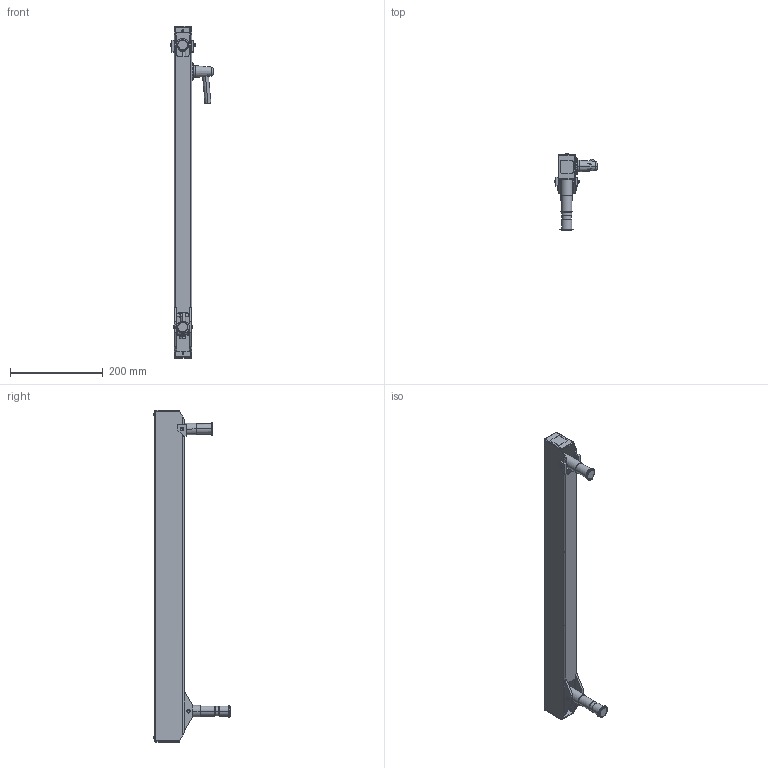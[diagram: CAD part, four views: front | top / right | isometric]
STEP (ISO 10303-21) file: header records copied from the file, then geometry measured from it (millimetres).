
FILE_DESCRIPTION (( 'STEP AP203' ), '1' );
FILE_NAME ('70-2435-00 REV AA, FLEX SECTION, 24in, 16-35 LB - HORIZONTAL.STEP', '2025-06-17T23:26:22', ( '' ), ( '' ), 'SwSTEP 2.0', 'SolidWorks 2025', '' );
FILE_SCHEMA (( 'CONFIG_CONTROL_DESIGN' ));
Length unit declared in the file: inch
Products named in the file (37): 71-0060-00; 71-0028-RX REV AA, TAB, MOUNT_MACHINE; 010-012-00, RETAINING RING, EXTERNAL, .875in SHAFT; 71-0040-RX REV AA, BRAKE BLOCK, WIDE_MACHINE; 71-0030-RX REV AA, KNUCKLE, LOAD_MACHINE; 11-0027-RX REV AA, PLASTIC DISC, BRAKE ASSEMBLY_MACHINE; 006-004-00_006-004-00; 71-0057-WDX REV AA, GUIDE WELDMENT, 24in DOUBLE SPRING GUIDE; 11-0650-00 REV AA, BRAKE HANDLE ASSEMBLY; 70-2435-00 REV AA,  FLEX SECTION, 24in, 16-35 LB - HORIZONTAL; 006-059-00; 71-0059-RX REV AA, BUSHING, GUIDE, 24in DOUBLE SPRING; 71-0972-99 REV 1, END CAP, FLEX; 011-033-00; 71-1051-RX REV AA, SPRING BLOCK; 013-043-00, SPRING, GOLD, 1x8_ISO425203; 71-2033-99 REV AA, BOLT, ADJUSTING, 12.120; 71-0029-RX REV AA, TAB, LOAD; 002-041-00_002-041-00; 71-0031-RX REV AA, KNUCKLE, MOUNT_MACHINE; 016-070-00, BEARING, PLASTIC, .5ID x .625 OD x .75; 004-144-00; 005-084-00, BOLT, 1''4-20x2.75; 71-0037-RX REV AA, PIVOT, THREADED; 71-3032-RX REV AA, SPRING ROD, 24in FLEX; 71-0038-RX REV AA, PIVOT, KNUCKLE, ELECTROLESS NICKEL; 11-0602-RX REV AA, HANDLE, BRAKE ASSEMBLY; 011-020-00 REV AA, PIN, KNURLED, 1.0LG x .25OD; 71-0070-RX REV AA, AXLE PIN, SHORT; 010-011-00, RETAINING RING, EXT, .250 SHAFT_010-011-00; 71-2401-BLKX REV AA, FLEX HOUSING, 24in, BLACK; 007-036-00, SHSS, 1''4-28, .25L_007-036-00; 71-2400-RX REV AA, HOUSING, 24in FLEX; 71-0071-RX REV AA, AXLE PIN, LONG; 71-0058-RX REV AA, BAR, GUIDE, 24in DOUBLE SPRING; 004-050-00, WASHER, FIBER, .032 THK, .265ID; 11-0601-99 REV AA, CONICAL KNOB, BRAKE ASSEMBLY
Assembly tree (57 placements, depth 3):
  70-2435-00 REV AA,  FLEX SECTION, 24in, 16-35 LB - HORIZONTAL
    71-0031-RX REV AA, KNUCKLE, MOUNT_MACHINE
    71-1051-RX REV AA, SPRING BLOCK
    71-3032-RX REV AA, SPRING ROD, 24in FLEX
    71-0030-RX REV AA, KNUCKLE, LOAD_MACHINE
    71-0038-RX REV AA, PIVOT, KNUCKLE, ELECTROLESS NICKEL
    71-0037-RX REV AA, PIVOT, THREADED
    71-0040-RX REV AA, BRAKE BLOCK, WIDE_MACHINE
    71-2033-99 REV AA, BOLT, ADJUSTING, 12.120
    71-2401-BLKX REV AA, FLEX HOUSING, 24in, BLACK
      71-2400-RX REV AA, HOUSING, 24in FLEX
      71-0029-RX REV AA, TAB, LOAD  x2
      71-0028-RX REV AA, TAB, MOUNT_MACHINE  x2
    71-0070-RX REV AA, AXLE PIN, SHORT
    71-0071-RX REV AA, AXLE PIN, LONG
    71-0972-99 REV 1, END CAP, FLEX  x2
    11-0027-RX REV AA, PLASTIC DISC, BRAKE ASSEMBLY_MACHINE
    71-0057-WDX REV AA, GUIDE WELDMENT, 24in DOUBLE SPRING GUIDE
      71-0058-RX REV AA, BAR, GUIDE, 24in DOUBLE SPRING
      71-0059-RX REV AA, BUSHING, GUIDE, 24in DOUBLE SPRING  x2
    71-0060-00  x2
    11-0650-00 REV AA, BRAKE HANDLE ASSEMBLY
      11-0601-99 REV AA, CONICAL KNOB, BRAKE ASSEMBLY
      11-0602-RX REV AA, HANDLE, BRAKE ASSEMBLY
      11-0027-RX REV AA, PLASTIC DISC, BRAKE ASSEMBLY_MACHINE
      005-084-00, BOLT, 1''4-20x2.75
    010-012-00, RETAINING RING, EXTERNAL, .875in SHAFT  x2
    013-043-00, SPRING, GOLD, 1x8_ISO425203  x2
    010-011-00, RETAINING RING, EXT, .250 SHAFT_010-011-00  x4
    007-036-00, SHSS, 1''4-28, .25L_007-036-00
    016-070-00, BEARING, PLASTIC, .5ID x .625 OD x .75  x2
    011-033-00  x2
    011-020-00 REV AA, PIN, KNURLED, 1.0LG x .25OD  x2
    004-144-00  x3
    006-059-00
    004-050-00, WASHER, FIBER, .032 THK, .265ID  x4
    006-004-00_006-004-00  x2
    002-041-00_002-041-00  x2
Bounding box: 91.63 x 165.23 x 717.3 mm (x, y, z)
Volume: 698953.6 mm3; surface area: 476631.4 mm2
Topology: 57 solids, 57 shells, 1165 faces, 2834 edges, 1782 vertices
Faces by surface type: cylinder 468, plane 396, cone 217, torus 45, bspline 33, sphere 6
Entity records: 65151 total; most frequent: CARTESIAN_POINT 41776, ORIENTED_EDGE 3952, DIRECTION 3921, EDGE_CURVE 1976, AXIS2_PLACEMENT_3D 1505, VERTEX_POINT 1242, LINE 911, VECTOR 911
